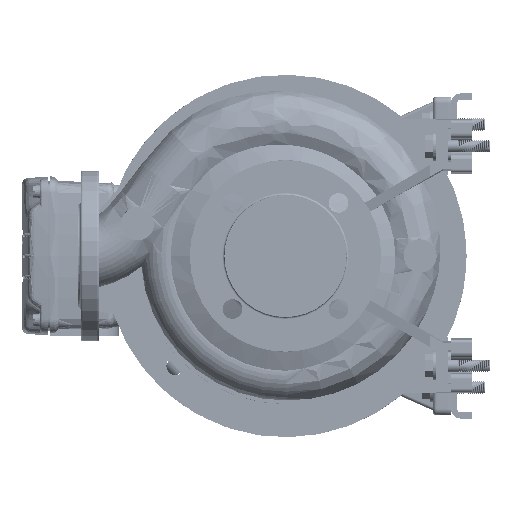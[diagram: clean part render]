
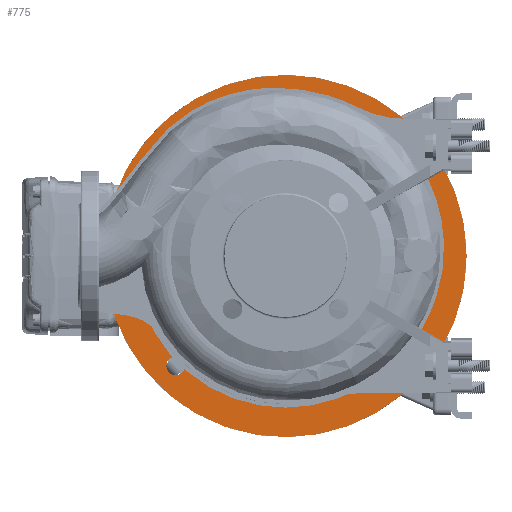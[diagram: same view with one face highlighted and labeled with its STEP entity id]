
A CAD part, left-side view. The second image highlights one B-rep face of the part: STEP entity #775.
In plain terms, the highlighted planar face has unit normal (-1, 0, 0).
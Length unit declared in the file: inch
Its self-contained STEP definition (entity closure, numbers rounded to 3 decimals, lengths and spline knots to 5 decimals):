
#775 = ADVANCED_FACE ( 'NONE', ( #150383, #220399, #204298, #205433, #117012, #45767 ), #67545, .T. ) ;
#1260 = AXIS2_PLACEMENT_3D ( 'NONE', #173989, #222284, #156779 ) ;
#1797 = CIRCLE ( 'NONE', #31127, 0.35433 ) ;
#1952 = ORIENTED_EDGE ( 'NONE', *, *, #21767, .F. ) ;
#3813 = CARTESIAN_POINT ( 'NONE',  ( 18.19018, 12.78172, 38.23406 ) ) ;
#9734 = EDGE_CURVE ( 'NONE', #120199, #19482, #180875, .T. ) ;
#16002 = CARTESIAN_POINT ( 'NONE',  ( 18.19018, 16.95633, 47.43757 ) ) ;
#16786 = CARTESIAN_POINT ( 'NONE',  ( 18.19018, 12.78172, 38.23406 ) ) ;
#17130 = AXIS2_PLACEMENT_3D ( 'NONE', #221311, #45545, #100694 ) ;
#17217 = CARTESIAN_POINT ( 'NONE',  ( 18.19018, 16.95633, 42.41081 ) ) ;
#17713 = CIRCLE ( 'NONE', #146179, 0.35433 ) ;
#18019 = ORIENTED_EDGE ( 'NONE', *, *, #226131, .F. ) ;
#18415 = CARTESIAN_POINT ( 'NONE',  ( 18.19018, 12.78172, 46.23323 ) ) ;
#19482 = VERTEX_POINT ( 'NONE', #23439 ) ;
#20800 = EDGE_LOOP ( 'NONE', ( #68242, #127171 ) ) ;
#21371 = VERTEX_POINT ( 'NONE', #60753 ) ;
#21767 = EDGE_CURVE ( 'NONE', #80178, #103115, #17713, .T. ) ;
#22453 = CARTESIAN_POINT ( 'NONE',  ( 18.19018, 12.78172, 46.9419 ) ) ;
#23439 = CARTESIAN_POINT ( 'NONE',  ( 18.19018, 21.13094, 38.5884 ) ) ;
#24414 = DIRECTION ( 'NONE',  ( 0., 0., 1. ) ) ;
#24489 = CIRCLE ( 'NONE', #17130, 0.9252 ) ;
#31127 = AXIS2_PLACEMENT_3D ( 'NONE', #16786, #86859, #137459 ) ;
#31549 = CIRCLE ( 'NONE', #152792, 0.35433 ) ;
#31668 = CARTESIAN_POINT ( 'NONE',  ( 18.19018, 21.13094, 46.9419 ) ) ;
#35331 = EDGE_CURVE ( 'NONE', #108729, #21371, #86046, .T. ) ;
#35542 = DIRECTION ( 'NONE',  ( 0., 0., -1. ) ) ;
#35848 = VERTEX_POINT ( 'NONE', #64296 ) ;
#36677 = CARTESIAN_POINT ( 'NONE',  ( 18.19018, 16.95633, 42.41081 ) ) ;
#38079 = EDGE_CURVE ( 'NONE', #19482, #120199, #31549, .T. ) ;
#38259 = EDGE_LOOP ( 'NONE', ( #92370, #81164 ) ) ;
#43082 = CARTESIAN_POINT ( 'NONE',  ( 18.19018, 21.13094, 38.23406 ) ) ;
#45545 = DIRECTION ( 'NONE',  ( 1., 0., 0. ) ) ;
#45767 = FACE_BOUND ( 'NONE', #170590, .T. ) ;
#47046 = ORIENTED_EDGE ( 'NONE', *, *, #84254, .T. ) ;
#52741 = DIRECTION ( 'NONE',  ( 0., 0., -1. ) ) ;
#52817 = DIRECTION ( 'NONE',  ( 1., 0., 0. ) ) ;
#53961 = CARTESIAN_POINT ( 'NONE',  ( 18.19018, 16.95633, 35.52105 ) ) ;
#54605 = CIRCLE ( 'NONE', #172016, 5.02675 ) ;
#55803 = CIRCLE ( 'NONE', #81376, 5.02675 ) ;
#60492 = DIRECTION ( 'NONE',  ( -1., 0., 0. ) ) ;
#60753 = CARTESIAN_POINT ( 'NONE',  ( 18.19018, 12.78172, 38.5884 ) ) ;
#61666 = CIRCLE ( 'NONE', #168093, 0.35433 ) ;
#63034 = CARTESIAN_POINT ( 'NONE',  ( 18.19018, 23.8461, 42.41081 ) ) ;
#64296 = CARTESIAN_POINT ( 'NONE',  ( 18.19018, 16.95633, 49.30058 ) ) ;
#65509 = EDGE_CURVE ( 'NONE', #198380, #117486, #24489, .T. ) ;
#66411 = DIRECTION ( 'NONE',  ( -1., 0., 0. ) ) ;
#66853 = CARTESIAN_POINT ( 'NONE',  ( 18.19018, 16.95633, 37.38406 ) ) ;
#67545 = PLANE ( 'NONE',  #190245 ) ;
#68242 = ORIENTED_EDGE ( 'NONE', *, *, #175056, .T. ) ;
#70197 = CARTESIAN_POINT ( 'NONE',  ( 18.19018, 16.95633, 42.41081 ) ) ;
#71072 = CARTESIAN_POINT ( 'NONE',  ( 18.19018, 12.78172, 46.58756 ) ) ;
#74576 = EDGE_CURVE ( 'NONE', #117486, #210771, #55803, .T. ) ;
#77605 = DIRECTION ( 'NONE',  ( 0., 0., 1. ) ) ;
#78657 = AXIS2_PLACEMENT_3D ( 'NONE', #3813, #92265, #24414 ) ;
#80178 = VERTEX_POINT ( 'NONE', #18415 ) ;
#81164 = ORIENTED_EDGE ( 'NONE', *, *, #35331, .T. ) ;
#81376 = AXIS2_PLACEMENT_3D ( 'NONE', #180339, #191049, #209416 ) ;
#81833 = AXIS2_PLACEMENT_3D ( 'NONE', #43082, #95975, #77605 ) ;
#84254 = EDGE_CURVE ( 'NONE', #210771, #155826, #129499, .T. ) ;
#85706 = AXIS2_PLACEMENT_3D ( 'NONE', #136682, #119440, #52741 ) ;
#86046 = CIRCLE ( 'NONE', #78657, 0.35433 ) ;
#86859 = DIRECTION ( 'NONE',  ( 1., 0., 0. ) ) ;
#87454 = DIRECTION ( 'NONE',  ( 0., 0., -1. ) ) ;
#92265 = DIRECTION ( 'NONE',  ( 1., 0., 0. ) ) ;
#92370 = ORIENTED_EDGE ( 'NONE', *, *, #106633, .T. ) ;
#93102 = CIRCLE ( 'NONE', #85706, 0.35433 ) ;
#94173 = ORIENTED_EDGE ( 'NONE', *, *, #38079, .F. ) ;
#95050 = CARTESIAN_POINT ( 'NONE',  ( 18.19018, 21.13094, 38.23406 ) ) ;
#95975 = DIRECTION ( 'NONE',  ( -1., 0., 0. ) ) ;
#96972 = ORIENTED_EDGE ( 'NONE', *, *, #174519, .F. ) ;
#100694 = DIRECTION ( 'NONE',  ( 0., 0., 1. ) ) ;
#103115 = VERTEX_POINT ( 'NONE', #22453 ) ;
#103907 = ORIENTED_EDGE ( 'NONE', *, *, #165883, .T. ) ;
#103974 = CIRCLE ( 'NONE', #155326, 6.88976 ) ;
#105314 = CARTESIAN_POINT ( 'NONE',  ( 18.19018, 11.97246, 41.75563 ) ) ;
#106633 = EDGE_CURVE ( 'NONE', #21371, #108729, #1797, .T. ) ;
#106869 = DIRECTION ( 'NONE',  ( 0., 0., -1. ) ) ;
#108729 = VERTEX_POINT ( 'NONE', #138030 ) ;
#109663 = CARTESIAN_POINT ( 'NONE',  ( 18.19018, 21.13094, 37.87973 ) ) ;
#111313 = CIRCLE ( 'NONE', #1260, 6.88976 ) ;
#113318 = CARTESIAN_POINT ( 'NONE',  ( 18.19018, 12.78172, 46.58756 ) ) ;
#115929 = EDGE_CURVE ( 'NONE', #103115, #80178, #61666, .T. ) ;
#117012 = FACE_BOUND ( 'NONE', #38259, .T. ) ;
#117486 = VERTEX_POINT ( 'NONE', #105314 ) ;
#119440 = DIRECTION ( 'NONE',  ( 1., 0., 0. ) ) ;
#120199 = VERTEX_POINT ( 'NONE', #109663 ) ;
#127171 = ORIENTED_EDGE ( 'NONE', *, *, #198619, .T. ) ;
#129499 = CIRCLE ( 'NONE', #199154, 5.02675 ) ;
#129761 = CARTESIAN_POINT ( 'NONE',  ( 18.19018, 21.13094, 46.58756 ) ) ;
#131432 = VERTEX_POINT ( 'NONE', #172952 ) ;
#136682 = CARTESIAN_POINT ( 'NONE',  ( 18.19018, 21.13094, 46.58756 ) ) ;
#137459 = DIRECTION ( 'NONE',  ( 0., 0., 1. ) ) ;
#138030 = CARTESIAN_POINT ( 'NONE',  ( 18.19018, 12.78172, 37.87973 ) ) ;
#138670 = EDGE_LOOP ( 'NONE', ( #18019, #96972 ) ) ;
#139006 = ORIENTED_EDGE ( 'NONE', *, *, #115929, .F. ) ;
#141183 = DIRECTION ( 'NONE',  ( -1., 0., 0. ) ) ;
#146179 = AXIS2_PLACEMENT_3D ( 'NONE', #113318, #60492, #201739 ) ;
#147913 = DIRECTION ( 'NONE',  ( 0., 0., 1. ) ) ;
#150383 = FACE_OUTER_BOUND ( 'NONE', #138670, .T. ) ;
#152792 = AXIS2_PLACEMENT_3D ( 'NONE', #95050, #168510, #147913 ) ;
#155326 = AXIS2_PLACEMENT_3D ( 'NONE', #70197, #211462, #87454 ) ;
#155826 = VERTEX_POINT ( 'NONE', #16002 ) ;
#156779 = DIRECTION ( 'NONE',  ( 0., 0., -1. ) ) ;
#165883 = EDGE_CURVE ( 'NONE', #155826, #198380, #54605, .T. ) ;
#166037 = VERTEX_POINT ( 'NONE', #53961 ) ;
#168093 = AXIS2_PLACEMENT_3D ( 'NONE', #71072, #141183, #196233 ) ;
#168510 = DIRECTION ( 'NONE',  ( -1., 0., 0. ) ) ;
#170590 = EDGE_LOOP ( 'NONE', ( #205688, #188667, #47046, #103907 ) ) ;
#172016 = AXIS2_PLACEMENT_3D ( 'NONE', #17217, #52817, #205664 ) ;
#172952 = CARTESIAN_POINT ( 'NONE',  ( 18.19018, 21.13094, 46.23323 ) ) ;
#173989 = CARTESIAN_POINT ( 'NONE',  ( 18.19018, 16.95633, 42.41081 ) ) ;
#174519 = EDGE_CURVE ( 'NONE', #35848, #166037, #111313, .T. ) ;
#175056 = EDGE_CURVE ( 'NONE', #131432, #194821, #93102, .T. ) ;
#180339 = CARTESIAN_POINT ( 'NONE',  ( 18.19018, 16.95633, 42.41081 ) ) ;
#180875 = CIRCLE ( 'NONE', #81833, 0.35433 ) ;
#188667 = ORIENTED_EDGE ( 'NONE', *, *, #74576, .T. ) ;
#189829 = EDGE_LOOP ( 'NONE', ( #94173, #224290 ) ) ;
#190245 = AXIS2_PLACEMENT_3D ( 'NONE', #63034, #66411, #224963 ) ;
#191049 = DIRECTION ( 'NONE',  ( 1., 0., 0. ) ) ;
#194821 = VERTEX_POINT ( 'NONE', #31668 ) ;
#196142 = AXIS2_PLACEMENT_3D ( 'NONE', #129761, #199804, #106869 ) ;
#196233 = DIRECTION ( 'NONE',  ( 0., 0., -1. ) ) ;
#198380 = VERTEX_POINT ( 'NONE', #225247 ) ;
#198619 = EDGE_CURVE ( 'NONE', #194821, #131432, #207117, .T. ) ;
#199154 = AXIS2_PLACEMENT_3D ( 'NONE', #36677, #211296, #35542 ) ;
#199804 = DIRECTION ( 'NONE',  ( 1., 0., 0. ) ) ;
#201739 = DIRECTION ( 'NONE',  ( 0., 0., -1. ) ) ;
#204298 = FACE_BOUND ( 'NONE', #221677, .T. ) ;
#205433 = FACE_BOUND ( 'NONE', #189829, .T. ) ;
#205664 = DIRECTION ( 'NONE',  ( 0., 0., -1. ) ) ;
#205688 = ORIENTED_EDGE ( 'NONE', *, *, #65509, .T. ) ;
#207117 = CIRCLE ( 'NONE', #196142, 0.35433 ) ;
#209416 = DIRECTION ( 'NONE',  ( 0., 0., -1. ) ) ;
#210771 = VERTEX_POINT ( 'NONE', #66853 ) ;
#211296 = DIRECTION ( 'NONE',  ( 1., 0., 0. ) ) ;
#211462 = DIRECTION ( 'NONE',  ( 1., 0., 0. ) ) ;
#220399 = FACE_BOUND ( 'NONE', #20800, .T. ) ;
#221311 = CARTESIAN_POINT ( 'NONE',  ( 18.19018, 12.6257, 42.41081 ) ) ;
#221677 = EDGE_LOOP ( 'NONE', ( #1952, #139006 ) ) ;
#222284 = DIRECTION ( 'NONE',  ( 1., 0., 0. ) ) ;
#224290 = ORIENTED_EDGE ( 'NONE', *, *, #9734, .F. ) ;
#224963 = DIRECTION ( 'NONE',  ( 0., 0., 1. ) ) ;
#225247 = CARTESIAN_POINT ( 'NONE',  ( 18.19018, 11.97246, 43.066 ) ) ;
#226131 = EDGE_CURVE ( 'NONE', #166037, #35848, #103974, .T. ) ;
